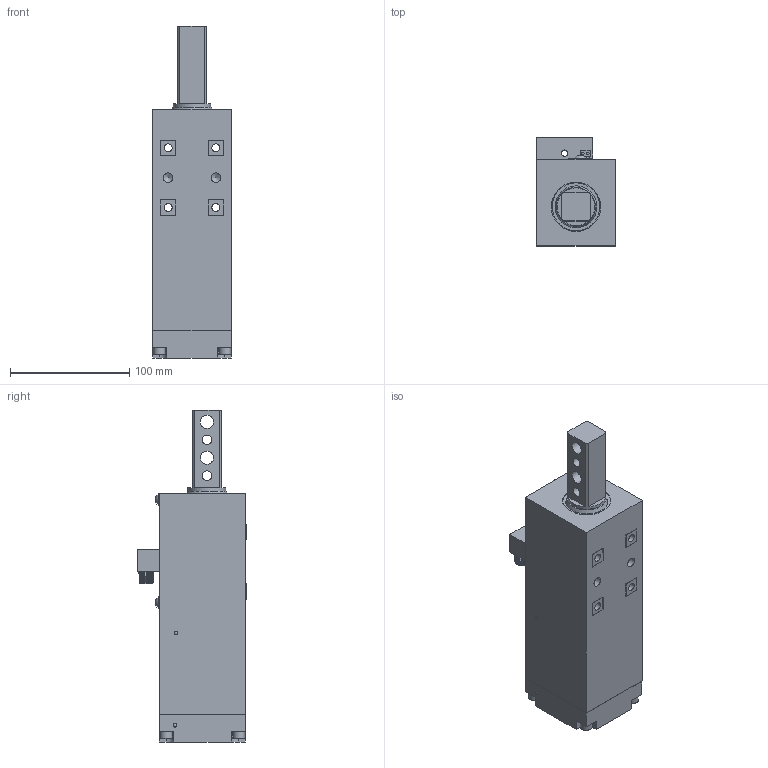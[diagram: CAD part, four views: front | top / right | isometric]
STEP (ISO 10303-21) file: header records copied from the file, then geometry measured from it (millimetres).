
FILE_DESCRIPTION(/* description */ (''),/* implementation_level */ '2;1');
FILE_NAME(/* name */ 'Z:\CAD-Zaytran\Product\LSA\LSA - 72\STEP Files\LSA-72 50mm\LSA-72 50mm Retract Holes Horizontal.stp',/* time_stamp */ '2021-01-04T08:16:44-05:00',/* author */ ('ZaytranCAD2'),/* organization */ (''),/* preprocessor_version */ 'ST-DEVELOPER v17',/* originating_system */ 'Autodesk Inventor 2019',/* authorisation */ '');
FILE_SCHEMA (('AUTOMOTIVE_DESIGN { 1 0 10303 214 3 1 1 }'));
Products named in the file (22): LSA-72 Assembly; LSA-72 Body; LSA-72 Shaft; LSA-72 Piston; LSA-72 Anti Rotation Block; 1.25 Dia Oring; Press Seal Ring; LSA-72 End Cap; .125 Ball Bearing; .3125 O Ring; Turck Sensor; Chicklet - New; 5.0x8mm Button Head Screw; M10 Washer; M10 Hex Nut; .375 Black Oxide 18-8 Stainless Steel Washer; M8 Washer; M8x30mm SHCS; AS 1420 - 1973 - M6 x 25; Sensor Cover; AS 1420 - 1973 - M3 x 6; Rod Wiper
Assembly tree (28 placements, depth 2):
  LSA-72 Assembly
    LSA-72 Body
    LSA-72 Shaft
    LSA-72 Piston
    LSA-72 Anti Rotation Block
    1.25 Dia Oring
    Press Seal Ring
    LSA-72 End Cap
    .125 Ball Bearing  x2
    .3125 O Ring
    Chicklet - New  x3
    Turck Sensor
    5.0x8mm Button Head Screw  x2
    M10 Washer
    M10 Hex Nut
    .375 Black Oxide 18-8 Stainless Steel Washer
    M8 Washer
    M8x30mm SHCS
    AS 1420 - 1973 - M6 x 25  x4
    Sensor Cover
    AS 1420 - 1973 - M3 x 6
    Rod Wiper
Bounding box: 66 x 91.01 x 277.99 mm (x, y, z)
Volume: 859651.4 mm3; surface area: 192275 mm2
Topology: 28 solids, 28 shells, 1288 faces, 3588 edges, 2398 vertices
Faces by surface type: plane 404, cone 330, cylinder 294, bspline 233, torus 23, sphere 4
Full cylindrical faces by diameter (mm): 1 x8, 1.587 x2, 2 x2, 2.2 x6, 2.464 x4, 3 x1, 3.048 x2, 3.099 x2, 3.175 x2, 3.961 x20, 4.14 x2, 4.47 x1, 4.762 x1, 4.928 x4, 5 x18, 5.3 x4, 5.5 x1, 6 x4, 6.248 x4, 6.655 x5, 6.701 x28, 6.756 x4, 7.938 x1, 8 x33, 8.3 x1, 8.331 x1, 8.56 x2, 9.5 x2, 9.652 x1, 9.982 x1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
Entity records: 51367 total; most frequent: CARTESIAN_POINT 22257, ORIENTED_EDGE 6524, DIRECTION 5097, EDGE_CURVE 3262, VERTEX_POINT 2181, AXIS2_PLACEMENT_3D 2082, EDGE_LOOP 1295, FACE_OUTER_BOUND 1172
